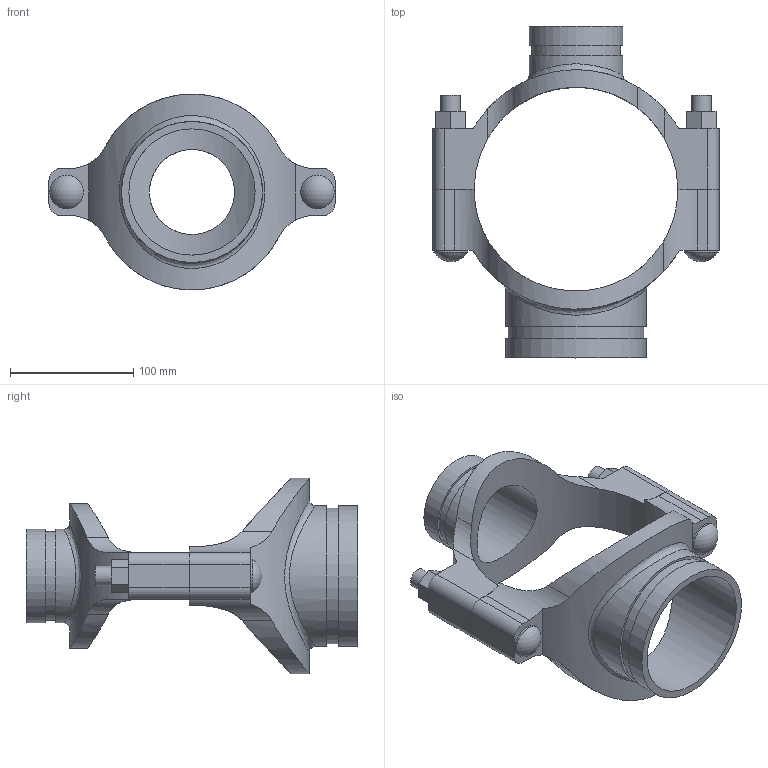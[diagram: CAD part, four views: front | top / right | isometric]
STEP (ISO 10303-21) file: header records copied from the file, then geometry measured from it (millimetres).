
FILE_DESCRIPTION(/* description */ ('VIC MECH-T BRANCH OUTLET CROSS STYLE 920N (GRVD)','CAx-IF Rec.Pracs.---Representation and Presentation of Product Manufacturing Information (PMI)---4.0---2014-10-13'),/* implementation_level */ '2;1');
FILE_NAME(/* name */ 'C:\Users\Vjadhav\AppData\Roaming\Autodesk\ApplicationPlugins\Back Up\Victaulic_IPS_Mechanical-Cross Outlet_Style 920N (OGS)\Victaulic_IPS_Mechanical-Cross Outlet_06.0 (165.1)x02.5 (76.1)x04.0 (150x65x100).stp',/* time_stamp */ '2020-08-06T19:45:45+05:00',/* author */ ('Vjadhav'),/* organization */ ('Victaulic'),/* preprocessor_version */ 'ST-DEVELOPER v17.2',/* originating_system */ 'Autodesk Inventor 2019',/* authorisation */ '');
FILE_SCHEMA (('AP242_MANAGED_MODEL_BASED_3D_ENGINEERING_MIM_LF { 1 0 10303 442 1 1 4 }'));
Length unit declared in the file: inch
Products named in the file (3): 920NG-06.0 (165.1)x02.5 (76.1)x04.0; 920G-06.0 (165.1)x02.5 (76.1); 920G-06.0 (165.1)x04.0
Assembly tree (2 placements, depth 2):
  920NG-06.0 (165.1)x02.5 (76.1)x04.0
    920G-06.0 (165.1)x02.5 (76.1)
    920G-06.0 (165.1)x04.0
Bounding box: 231.9 x 268.99 x 158.66 mm (x, y, z)
Volume: 756708.9 mm3; surface area: 187909.9 mm2
Topology: 2 solids, 2 shells, 104 faces, 262 edges, 178 vertices
Faces by surface type: plane 54, cylinder 46, sphere 2, bspline 2
Full cylindrical faces by diameter (mm): 15.875 x4, 27.381 x2, 68.986 x1, 72.263 x1, 76.2 x2, 102.394 x1, 110.084 x1, 114.3 x2
Entity records: 4270 total; most frequent: CARTESIAN_POINT 1497, DIRECTION 532, ORIENTED_EDGE 524, EDGE_CURVE 262, AXIS2_PLACEMENT_3D 193, VERTEX_POINT 178, LINE 146, VECTOR 146
